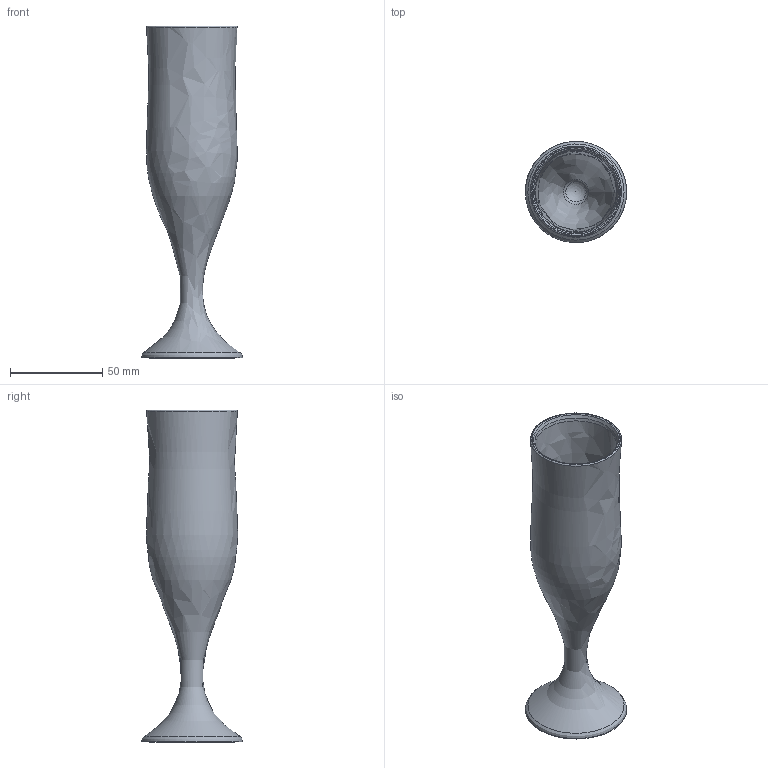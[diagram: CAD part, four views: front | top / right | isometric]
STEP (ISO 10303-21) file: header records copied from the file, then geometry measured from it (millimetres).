
FILE_DESCRIPTION(/* description */ (''),/* implementation_level */ '2;1');
FILE_NAME(/* name */ 'Glass rund.stp',/* time_stamp */ '2014-06-03T16:10:15+02:00',/* author */ (''),/* organization */ (''),/* preprocessor_version */ 'ST-DEVELOPER v14',/* originating_system */ 'SIEMENS PLM Software NX 8.0',/* authorisation */ '');
FILE_SCHEMA (('CONFIG_CONTROL_DESIGN'));
Length unit declared in the file: millimetre
Products named in the file (1): Glass rund
Bounding box: 54.9 x 54.89 x 180.09 mm (x, y, z)
Volume: 51555.7 mm3; surface area: 41567.3 mm2
Topology: 1 solids, 1 shells, 51 faces, 130 edges, 81 vertices
Faces by surface type: plane 19, bspline 17, sphere 7, cylinder 6, extrusion 2
Entity records: 5262 total; most frequent: CARTESIAN_POINT 4250, ORIENTED_EDGE 208, DIRECTION 134, EDGE_CURVE 104, VERTEX_POINT 69, EDGE_LOOP 65, B_SPLINE_CURVE_WITH_KNOTS 58, ADVANCED_FACE 51
